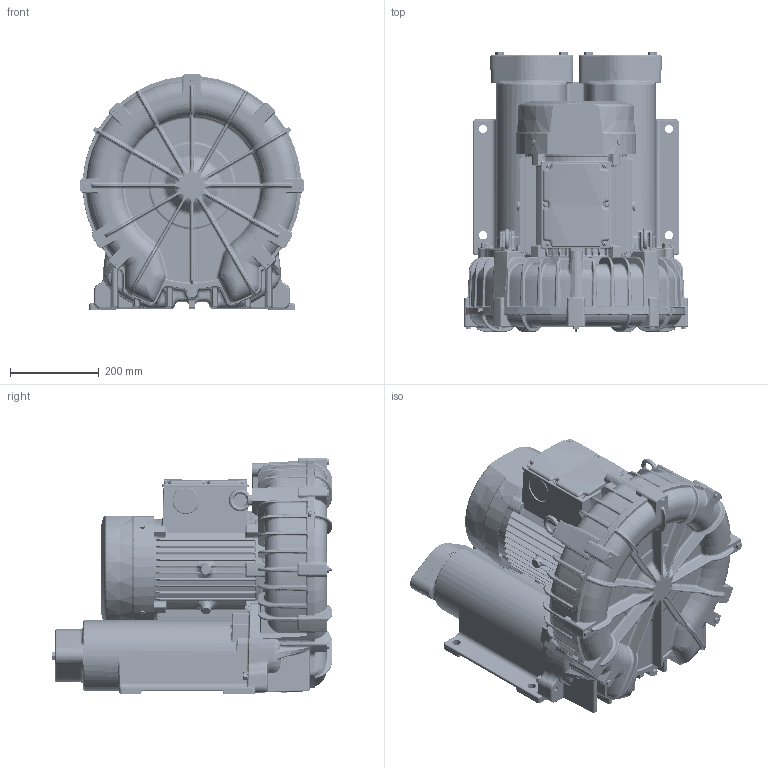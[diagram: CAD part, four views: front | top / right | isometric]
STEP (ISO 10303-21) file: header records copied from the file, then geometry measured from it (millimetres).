
FILE_DESCRIPTION(/* description */ (''),/* implementation_level */ '2;1');
FILE_NAME(/* name */ 'Z:\90_設計課\開發\鼓風機UL化\04-図面\RB 3D圖需求\VFZ901A-7W.stp',/* time_stamp */ '2017-03-15T09:28:41+08:00',/* author */ ('daniel'),/* organization */ (''),/* preprocessor_version */ 'ST-DEVELOPER v16.1',/* originating_system */ 'Autodesk Inventor 2016',/* authorisation */ '');
FILE_SCHEMA (('AUTOMOTIVE_DESIGN { 1 0 10303 214 3 1 1 }'));
Products named in the file (11): VFZ901A-7W_A; VFZ901A-7W_B; 20110850R-2; 20110825R-2; 20111240R-2; JIS B 1251 - 號碼 2 12 x 3; 21111240R-1; AS551377R-1; 30111017R-1; AS350152R-0a_包膜; VFZ901A-7W
Assembly tree (21 placements, depth 3):
  VFZ901A-7W
    VFZ901A-7W_A
    VFZ901A-7W_B
    AS350152R-0a_包膜
    20110850R-2  x7
    20110825R-2
    21111240R-1  x6
      20111240R-2
      JIS B 1251 - 號碼 2 12 x 3
    AS551377R-1
    30111017R-1
Bounding box: 505.95 x 632.9 x 534.95 mm (x, y, z)
Volume: 60314403.6 mm3; surface area: 3021303.8 mm2
Topology: 27 solids, 29 shells, 8305 faces, 20074 edges, 11618 vertices
Faces by surface type: bspline 3941, cylinder 1498, plane 1258, torus 842, cone 514, sphere 252
Full cylindrical faces by diameter (mm): 6 x4, 6.647 x8, 8 x8, 8.376 x1, 8.917 x1, 10 x9, 10.106 x6, 12 x7, 13 x6, 19 x4, 63 x3, 84.926 x2, 270 x1
Entity records: 456539 total; most frequent: CARTESIAN_POINT 290751, ORIENTED_EDGE 38350, DIRECTION 28545, EDGE_CURVE 19170, AXIS2_PLACEMENT_3D 12453, VERTEX_POINT 11261, EDGE_LOOP 8284, FACE_OUTER_BOUND 8076
